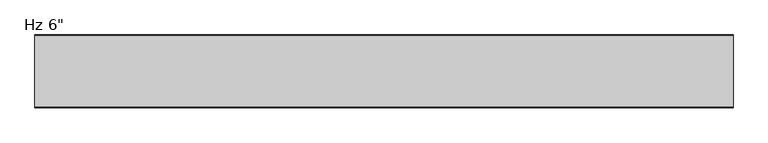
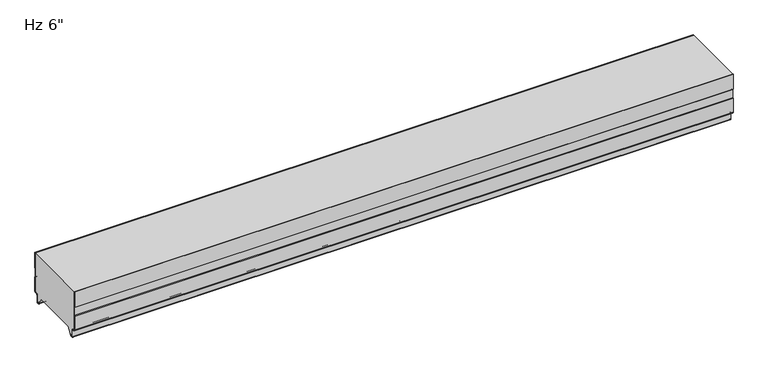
"""IFC4 building model written with IfcOpenShell, lengths in millimetres: plate geometry."""

from ifc_helpers import new_model, si_unit, frame, origin, place, context, project, spatial, polyline, circle_curve, source, transform, mapped, element, save
from ifc_brep_helpers import plane_surface, cylinder_surface, revolved_surface, advanced_brep


def plate_7880e4a6(model_context):
    return source(origin(), model_context, "Body", "AdvancedBrep", [
        advanced_brep(
        [(-730.0, -1.0, 59.9218553), (-730.0, -1.0, 94.95), (-730.0, 0.0, 94.95), (-730.0, 0.0, 59.479416), (-730.0, -1.1911595, 58.4068912), (-730.0, -1.1911595, 39.5087751), (-730.0, 0.0, 38.4362503), (-730.0, 0.0, 5.8272193), (-730.0, -2.9772904, 2.8499526), (-730.0, -5.2691742, 2.8499526), (-730.0, -8.2464427, -0.1273159), (-730.0, -8.2464427, -15.7237419), (-730.0, -9.8343193, -17.3116185), (-730.0, -12.905868, -17.3116185), (-730.0, -14.4937445, -15.7237419), (-730.0, -14.4937445, -13.3687064), (-730.0, -13.4937445, -13.3687064), (-730.0, -13.4937445, -15.7237419), (-730.0, -12.905868, -16.3116185), (-730.0, -9.8343193, -16.3116185), (-730.0, -9.2464427, -15.7237419), (-730.0, -9.2464427, -0.1273159), (-730.0, -5.2691742, 3.8499526), (-730.0, -2.9772904, 3.8499526), (-730.0, -1.0000218, 5.82722), (-730.0, -1.0, 37.993811), (-730.0, -2.1911595, 39.0663358), (-730.0, -2.1911595, 58.8493305), (730.0, 0.0, 59.479416), (730.0, 0.0, 94.95), (730.0, -1.0, 94.95), (730.0, -1.0, 59.9218553), (730.0, -2.1911595, 58.8493305), (730.0, -2.1911595, 39.0663358), (730.0, -1.0, 37.993811), (730.0, -1.0, 5.82722), (730.0, -2.9772904, 3.8499526), (730.0, -5.2691742, 3.8499526), (730.0, -9.2464427, -0.1273159), (730.0, -9.2464427, -15.7237419), (730.0, -9.8343193, -16.3116185), (730.0, -12.905868, -16.3116185), (730.0, -13.4937445, -15.7237419), (730.0, -13.4937445, -13.3687064), (730.0, -14.4937445, -13.3687064), (730.0, -14.4937445, -15.7237419), (730.0, -12.905868, -17.3116185), (730.0, -9.8343193, -17.3116185), (730.0, -8.2464427, -15.7237419), (730.0, -8.2464427, -0.1273159), (730.0, -5.2691742, 2.8499526), (730.0, -2.9772904, 2.8499526), (730.0, -2.18e-05, 5.8272193), (730.0, 0.0, 38.4362503), (730.0, -1.1911595, 39.5087751), (730.0, -1.1911595, 58.4068912)],
        [
            (0, 1),
            (1, 2),
            (2, 3),
            (3, 4),
            (4, 5),
            (5, 6),
            (6, 7),
            (7, 8, circle_curve(frame((-730.0, -2.9772904, 5.8272211), z_axis=(-1.0, 0.0, 0.0), x_axis=(0.0, 1.0, 0.0)), 2.9772685)),
            (8, 9),
            (9, 10, circle_curve(frame((-730.0, -5.2691742, -0.1273159), z_axis=(1.0, 0.0, 0.0), x_axis=(0.0, 1.0, 0.0)), 2.9772685)),
            (10, 11),
            (11, 12, circle_curve(frame((-730.0, -9.8343193, -15.7237419), z_axis=(-1.0, 0.0, 0.0), x_axis=(0.0, 1.0, 0.0)), 1.5878765)),
            (12, 13),
            (13, 14, circle_curve(frame((-730.0, -12.905868, -15.7237419), z_axis=(-1.0, 0.0, 0.0), x_axis=(0.0, 1.0, 0.0)), 1.5878765)),
            (14, 15),
            (15, 16),
            (16, 17),
            (17, 18, circle_curve(frame((-730.0, -12.905868, -15.7237419), z_axis=(1.0, 0.0, 0.0), x_axis=(0.0, 1.0, 0.0)), 0.5878765)),
            (18, 19),
            (19, 20, circle_curve(frame((-730.0, -9.8343193, -15.7237419), z_axis=(1.0, 0.0, 0.0), x_axis=(0.0, 1.0, 0.0)), 0.5878765)),
            (20, 21),
            (21, 22, circle_curve(frame((-730.0, -5.2691742, -0.1273159), z_axis=(-1.0, 0.0, 0.0), x_axis=(0.0, 1.0, 0.0)), 3.9772685)),
            (22, 23),
            (23, 24, circle_curve(frame((-730.0, -2.9772904, 5.8272212), z_axis=(1.0, 0.0, 0.0), x_axis=(0.0, 1.0, 0.0)), 1.9772685)),
            (24, 25),
            (25, 26),
            (26, 27),
            (27, 0),
            (28, 29),
            (29, 30),
            (30, 31),
            (31, 32),
            (32, 33),
            (33, 34),
            (34, 35),
            (35, 36, circle_curve(frame((730.0, -2.9772904, 5.8272212), z_axis=(-1.0, 0.0, 0.0), x_axis=(0.0, 1.0, 0.0)), 1.9772685)),
            (36, 37),
            (37, 38, circle_curve(frame((730.0, -5.2691742, -0.1273159), z_axis=(1.0, 0.0, 0.0), x_axis=(0.0, 1.0, 0.0)), 3.9772685)),
            (38, 39),
            (39, 40, circle_curve(frame((730.0, -9.8343193, -15.7237419), z_axis=(-1.0, 0.0, 0.0), x_axis=(0.0, 1.0, 0.0)), 0.5878765)),
            (40, 41),
            (41, 42, circle_curve(frame((730.0, -12.905868, -15.7237419), z_axis=(-1.0, 0.0, 0.0), x_axis=(0.0, 1.0, 0.0)), 0.5878765)),
            (42, 43),
            (43, 44),
            (44, 45),
            (45, 46, circle_curve(frame((730.0, -12.905868, -15.7237419), z_axis=(1.0, 0.0, 0.0), x_axis=(0.0, 1.0, 0.0)), 1.5878765)),
            (46, 47),
            (47, 48, circle_curve(frame((730.0, -9.8343193, -15.7237419), z_axis=(1.0, 0.0, 0.0), x_axis=(0.0, 1.0, 0.0)), 1.5878765)),
            (48, 49),
            (49, 50, circle_curve(frame((730.0, -5.2691742, -0.1273159), z_axis=(-1.0, 0.0, 0.0), x_axis=(0.0, 1.0, 0.0)), 2.9772685)),
            (50, 51),
            (51, 52, circle_curve(frame((730.0, -2.9772904, 5.8272211), z_axis=(1.0, 0.0, 0.0), x_axis=(0.0, 1.0, 0.0)), 2.9772685)),
            (52, 53),
            (53, 54),
            (54, 55),
            (55, 28),
            (30, 1),
            (0, 31),
            (27, 32),
            (26, 33),
            (25, 34),
            (24, 35),
            (23, 36),
            (22, 37),
            (21, 38),
            (20, 39),
            (19, 40),
            (18, 41),
            (17, 42),
            (16, 43),
            (15, 44),
            (14, 45),
            (13, 46),
            (12, 47),
            (11, 48),
            (10, 49),
            (9, 50),
            (8, 51),
            (7, 52),
            (6, 53),
            (5, 54),
            (4, 55),
            (3, 28),
            (2, 29),
        ],
        [
            plane_surface(frame((-730.0, 0.0, 576.2625), z_axis=(-1.0, 0.0, 0.0), x_axis=(0.0, 1.0, 0.0))),
            plane_surface(frame((730.0, 0.0, 576.2625), z_axis=(1.0, 0.0, 0.0), x_axis=(0.0, 1.0, 0.0))),
            plane_surface(frame((-730.0, -1.0, 113.6164312), z_axis=(0.0, -1.0, 0.0), x_axis=(1.0, 0.0, 0.0))),
            plane_surface(frame((-730.0, -1.0, 59.9218553), z_axis=(0.0, -0.6691306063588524, 0.7431448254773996), x_axis=(1.0, 0.0, 0.0))),
            plane_surface(frame((-730.0, -2.1911595, 58.8493305), z_axis=(0.0, -1.0, 0.0), x_axis=(1.0, 0.0, 0.0))),
            plane_surface(frame((-730.0, -2.1911595, 39.0663358), z_axis=(0.0, -0.6691306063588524, -0.7431448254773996), x_axis=(1.0, 0.0, 0.0))),
            plane_surface(frame((-730.0, -1.0, 37.993811), z_axis=(0.0, -1.0, 0.0), x_axis=(1.0, 0.0, 0.0))),
            revolved_surface(polyline([(730.0, -1.0000218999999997, 5.8272212), (-730.0, -1.0000218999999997, 5.8272212)]), (-730.0, -2.9772904, 5.8272212), (1.0, 0.0, 0.0)),
            plane_surface(frame((-730.0, -2.9772904, 3.8499526), z_axis=(0.0, 0.0, 1.0), x_axis=(1.0, 0.0, 0.0))),
            cylinder_surface(frame((-730.0, -5.2691742, -0.1273159), z_axis=(-1.0, 0.0, 0.0), x_axis=(0.0, 1.0, 0.0)), 3.9772685),
            plane_surface(frame((-730.0, -9.2464427, -0.1273159), z_axis=(0.0, -1.0, 0.0), x_axis=(1.0, 0.0, 0.0))),
            revolved_surface(polyline([(730.0, -9.2464428, -15.7237419), (-730.0, -9.2464428, -15.7237419)]), (-730.0, -9.8343193, -15.7237419), (1.0, 0.0, 0.0)),
            plane_surface(frame((-730.0, -9.8343193, -16.3116185), z_axis=(0.0, 0.0, 1.0), x_axis=(1.0, 0.0, 0.0))),
            revolved_surface(polyline([(730.0, -12.3179915, -15.7237419), (-730.0, -12.3179915, -15.7237419)]), (-730.0, -12.905868, -15.7237419), (1.0, 0.0, 0.0)),
            plane_surface(frame((-730.0, -13.4937445, -15.7237419), z_axis=(0.0, 1.0, 0.0), x_axis=(1.0, 0.0, 0.0))),
            plane_surface(frame((-730.0, -13.4937445, -13.3687064), z_axis=(0.0, 0.0, 1.0), x_axis=(1.0, 0.0, 0.0))),
            plane_surface(frame((-730.0, -14.4937445, -13.3687064), z_axis=(0.0, -1.0, 0.0), x_axis=(1.0, 0.0, 0.0))),
            cylinder_surface(frame((-730.0, -12.905868, -15.7237419), z_axis=(-1.0, 0.0, 0.0), x_axis=(0.0, 1.0, 0.0)), 1.5878765),
            plane_surface(frame((-730.0, -12.905868, -17.3116185), z_axis=(0.0, 0.0, -1.0), x_axis=(1.0, 0.0, 0.0))),
            cylinder_surface(frame((-730.0, -9.8343193, -15.7237419), z_axis=(-1.0, 0.0, 0.0), x_axis=(0.0, 1.0, 0.0)), 1.5878765),
            plane_surface(frame((-730.0, -8.2464427, -15.7237419), z_axis=(0.0, 1.0, 0.0), x_axis=(1.0, 0.0, 0.0))),
            revolved_surface(polyline([(730.0, -2.2919057, -0.1273159), (-730.0, -2.2919057, -0.1273159)]), (-730.0, -5.2691742, -0.1273159), (1.0, 0.0, 0.0)),
            plane_surface(frame((-730.0, -5.2691742, 2.8499526), z_axis=(0.0, 0.0, -1.0), x_axis=(1.0, 0.0, 0.0))),
            cylinder_surface(frame((-730.0, -2.9772904, 5.8272211), z_axis=(-1.0, 0.0, 0.0), x_axis=(0.0, 1.0, 0.0)), 2.9772685),
            plane_surface(frame((-730.0, 0.0, 5.8272193), z_axis=(0.0, 1.0, 0.0), x_axis=(1.0, 0.0, 0.0))),
            plane_surface(frame((-730.0, 0.0, 38.4362503), z_axis=(0.0, 0.6691306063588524, 0.7431448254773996), x_axis=(1.0, 0.0, 0.0))),
            plane_surface(frame((-730.0, -1.1911595, 39.5087751), z_axis=(0.0, 1.0, 0.0), x_axis=(1.0, 0.0, 0.0))),
            plane_surface(frame((-730.0, -1.1911595, 58.4068912), z_axis=(0.0, 0.6691306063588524, -0.7431448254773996), x_axis=(1.0, 0.0, 0.0))),
            plane_surface(frame((-730.0, 0.0, 59.479416), z_axis=(0.0, 1.0, 0.0), x_axis=(1.0, 0.0, 0.0))),
            plane_surface(frame((730.0, 10.0, 94.95), z_axis=(0.0, 0.0, 1.0), x_axis=(-1.0, 0.0, 0.0))),
        ],
        [
            (0, [[1, 2, 3, 4, 5, 6, 7, 8, 9, 10, 11, 12, 13, 14, 15, 16, 17, 18, 19, 20, 21, 22, 23, 24, 25, 26, 27, 28]]),
            (1, [[29, 30, 31, 32, 33, 34, 35, 36, 37, 38, 39, 40, 41, 42, 43, 44, 45, 46, 47, 48, 49, 50, 51, 52, 53, 54, 55, 56]]),
            (2, [[-31, 57, -1, 58]]),
            (3, [[59, -32, -58, -28]]),
            (4, [[60, -33, -59, -27]]),
            (5, [[61, -34, -60, -26]]),
            (6, [[62, -35, -61, -25]]),
            (7, [[63, -36, -62, -24]]),
            (8, [[64, -37, -63, -23]]),
            (9, [[65, -38, -64, -22]]),
            (10, [[66, -39, -65, -21]]),
            (11, [[67, -40, -66, -20]]),
            (12, [[68, -41, -67, -19]]),
            (13, [[69, -42, -68, -18]]),
            (14, [[70, -43, -69, -17]]),
            (15, [[71, -44, -70, -16]]),
            (16, [[72, -45, -71, -15]]),
            (17, [[73, -46, -72, -14]]),
            (18, [[74, -47, -73, -13]]),
            (19, [[75, -48, -74, -12]]),
            (20, [[76, -49, -75, -11]]),
            (21, [[77, -50, -76, -10]]),
            (22, [[78, -51, -77, -9]]),
            (23, [[79, -52, -78, -8]]),
            (24, [[80, -53, -79, -7]]),
            (25, [[81, -54, -80, -6]]),
            (26, [[82, -55, -81, -5]]),
            (27, [[83, -56, -82, -4]]),
            (28, [[-3, 84, -29, -83]]),
            (29, [[-57, -30, -84, -2]]),
        ],
    ),
        advanced_brep(
        [(-730.0, -152.4, 59.479416), (-730.0, -152.4, 94.95), (-730.0, -151.4, 94.95), (-730.0, -151.4, 59.9218553), (-730.0, -150.2088405, 58.8493305), (-730.0, -150.2088405, 39.0663358), (-730.0, -151.4, 37.993811), (-730.0, -151.4, 5.82722), (-730.0, -149.4227096, 3.8499526), (-730.0, -147.1308258, 3.8499526), (-730.0, -143.1535573, -0.1273159), (-730.0, -143.1535573, -15.7237419), (-730.0, -142.5656807, -16.3116185), (-730.0, -139.494132, -16.3116185), (-730.0, -138.9062555, -15.7237419), (-730.0, -138.9062555, -13.3687064), (-730.0, -137.9062555, -13.3687064), (-730.0, -137.9062555, -15.7237419), (-730.0, -139.494132, -17.3116185), (-730.0, -142.5656807, -17.3116185), (-730.0, -144.1535573, -15.7237419), (-730.0, -144.1535573, -0.1273159), (-730.0, -147.1308258, 2.8499526), (-730.0, -149.4227096, 2.8499526), (-730.0, -152.3999782, 5.8272193), (-730.0, -152.4, 38.4362503), (-730.0, -151.2088405, 39.5087751), (-730.0, -151.2088405, 58.4068912), (730.0, -151.4, 59.9218553), (730.0, -151.4, 94.95), (730.0, -152.4, 94.95), (730.0, -152.4, 59.479416), (730.0, -151.2088405, 58.4068912), (730.0, -151.2088405, 39.5087751), (730.0, -152.4, 38.4362503), (730.0, -152.4, 5.8272193), (730.0, -149.4227096, 2.8499526), (730.0, -147.1308258, 2.8499526), (730.0, -144.1535573, -0.1273159), (730.0, -144.1535573, -15.7237419), (730.0, -142.5656807, -17.3116185), (730.0, -139.494132, -17.3116185), (730.0, -137.9062555, -15.7237419), (730.0, -137.9062555, -13.3687064), (730.0, -138.9062555, -13.3687064), (730.0, -138.9062555, -15.7237419), (730.0, -139.494132, -16.3116185), (730.0, -142.5656807, -16.3116185), (730.0, -143.1535573, -15.7237419), (730.0, -143.1535573, -0.1273159), (730.0, -147.1308258, 3.8499526), (730.0, -149.4227096, 3.8499526), (730.0, -151.3999782, 5.82722), (730.0, -151.4, 37.993811), (730.0, -150.2088405, 39.0663358), (730.0, -150.2088405, 58.8493305)],
        [
            (0, 1),
            (1, 2),
            (2, 3),
            (3, 4),
            (4, 5),
            (5, 6),
            (6, 7),
            (7, 8, circle_curve(frame((-730.0, -149.4227096, 5.8272212), z_axis=(1.0, 0.0, 0.0), x_axis=(0.0, 0.0, -1.0)), 1.9772685)),
            (8, 9),
            (9, 10, circle_curve(frame((-730.0, -147.1308258, -0.1273159), z_axis=(-1.0, 0.0, 0.0), x_axis=(0.0, 0.0, -1.0)), 3.9772685)),
            (10, 11),
            (11, 12, circle_curve(frame((-730.0, -142.5656807, -15.7237419), z_axis=(1.0, 0.0, 0.0), x_axis=(0.0, 0.0, -1.0)), 0.5878765)),
            (12, 13),
            (13, 14, circle_curve(frame((-730.0, -139.494132, -15.7237419), z_axis=(1.0, 0.0, 0.0), x_axis=(0.0, 0.0, -1.0)), 0.5878765)),
            (14, 15),
            (15, 16),
            (16, 17),
            (17, 18, circle_curve(frame((-730.0, -139.494132, -15.7237419), z_axis=(-1.0, 0.0, 0.0), x_axis=(0.0, 0.0, -1.0)), 1.5878765)),
            (18, 19),
            (19, 20, circle_curve(frame((-730.0, -142.5656807, -15.7237419), z_axis=(-1.0, 0.0, 0.0), x_axis=(0.0, 0.0, -1.0)), 1.5878765)),
            (20, 21),
            (21, 22, circle_curve(frame((-730.0, -147.1308258, -0.1273159), z_axis=(1.0, 0.0, 0.0), x_axis=(0.0, 0.0, -1.0)), 2.9772685)),
            (22, 23),
            (23, 24, circle_curve(frame((-730.0, -149.4227096, 5.8272211), z_axis=(-1.0, 0.0, 0.0), x_axis=(0.0, 0.0, -1.0)), 2.9772685)),
            (24, 25),
            (25, 26),
            (26, 27),
            (27, 0),
            (28, 29),
            (29, 30),
            (30, 31),
            (31, 32),
            (32, 33),
            (33, 34),
            (34, 35),
            (35, 36, circle_curve(frame((730.0, -149.4227096, 5.8272211), z_axis=(1.0, 0.0, 0.0), x_axis=(0.0, 0.0, -1.0)), 2.9772685)),
            (36, 37),
            (37, 38, circle_curve(frame((730.0, -147.1308258, -0.1273159), z_axis=(-1.0, 0.0, 0.0), x_axis=(0.0, 0.0, -1.0)), 2.9772685)),
            (38, 39),
            (39, 40, circle_curve(frame((730.0, -142.5656807, -15.7237419), z_axis=(1.0, 0.0, 0.0), x_axis=(0.0, 0.0, -1.0)), 1.5878765)),
            (40, 41),
            (41, 42, circle_curve(frame((730.0, -139.494132, -15.7237419), z_axis=(1.0, 0.0, 0.0), x_axis=(0.0, 0.0, -1.0)), 1.5878765)),
            (42, 43),
            (43, 44),
            (44, 45),
            (45, 46, circle_curve(frame((730.0, -139.494132, -15.7237419), z_axis=(-1.0, 0.0, 0.0), x_axis=(0.0, 0.0, -1.0)), 0.5878765)),
            (46, 47),
            (47, 48, circle_curve(frame((730.0, -142.5656807, -15.7237419), z_axis=(-1.0, 0.0, 0.0), x_axis=(0.0, 0.0, -1.0)), 0.5878765)),
            (48, 49),
            (49, 50, circle_curve(frame((730.0, -147.1308258, -0.1273159), z_axis=(1.0, 0.0, 0.0), x_axis=(0.0, 0.0, -1.0)), 3.9772685)),
            (50, 51),
            (51, 52, circle_curve(frame((730.0, -149.4227096, 5.8272212), z_axis=(-1.0, 0.0, 0.0), x_axis=(0.0, 0.0, -1.0)), 1.9772685)),
            (52, 53),
            (53, 54),
            (54, 55),
            (55, 28),
            (1, 30),
            (29, 2),
            (0, 31),
            (27, 32),
            (26, 33),
            (25, 34),
            (24, 35),
            (23, 36),
            (22, 37),
            (21, 38),
            (20, 39),
            (19, 40),
            (18, 41),
            (17, 42),
            (16, 43),
            (15, 44),
            (14, 45),
            (13, 46),
            (12, 47),
            (11, 48),
            (10, 49),
            (9, 50),
            (8, 51),
            (7, 52),
            (6, 53),
            (5, 54),
            (4, 55),
            (3, 28),
        ],
        [
            plane_surface(frame((-730.0, -152.4, 576.2625), z_axis=(-1.0, 0.0, 0.0), x_axis=(0.0, -1.0, 0.0))),
            plane_surface(frame((730.0, -152.4, 576.2625), z_axis=(1.0, 0.0, 0.0), x_axis=(0.0, -1.0, 0.0))),
            plane_surface(frame((730.0, 10.0, 94.95), z_axis=(0.0, 0.0, 1.0), x_axis=(-1.0, 0.0, 0.0))),
            plane_surface(frame((-730.0, -152.4, 114.0588705), z_axis=(0.0, -1.0, 0.0), x_axis=(1.0, 0.0, 0.0))),
            plane_surface(frame((-730.0, -152.4, 59.479416), z_axis=(0.0, -0.6691306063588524, -0.7431448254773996), x_axis=(1.0, 0.0, 0.0))),
            plane_surface(frame((-730.0, -151.2088405, 58.4068912), z_axis=(0.0, -1.0, 0.0), x_axis=(1.0, 0.0, 0.0))),
            plane_surface(frame((-730.0, -151.2088405, 39.5087751), z_axis=(0.0, -0.6691306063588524, 0.7431448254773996), x_axis=(1.0, 0.0, 0.0))),
            plane_surface(frame((-730.0, -152.4, 38.4362503), z_axis=(0.0, -1.0, 0.0), x_axis=(1.0, 0.0, 0.0))),
            cylinder_surface(frame((-730.0, -149.4227096, 5.8272211), z_axis=(-1.0, 0.0, 0.0), x_axis=(0.0, 0.0, -1.0)), 2.9772685),
            plane_surface(frame((-730.0, -149.4227096, 2.8499526), z_axis=(0.0, 0.0, -1.0), x_axis=(1.0, 0.0, 0.0))),
            revolved_surface(polyline([(730.0, -147.1308258, -3.1045844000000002), (-730.0, -147.1308258, -3.1045844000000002)]), (-730.0, -147.1308258, -0.1273159), (1.0, 0.0, 0.0)),
            plane_surface(frame((-730.0, -144.1535573, -0.1273159), z_axis=(0.0, -1.0, 0.0), x_axis=(1.0, 0.0, 0.0))),
            cylinder_surface(frame((-730.0, -142.5656807, -15.7237419), z_axis=(-1.0, 0.0, 0.0), x_axis=(0.0, 0.0, -1.0)), 1.5878765),
            plane_surface(frame((-730.0, -142.5656807, -17.3116185), z_axis=(0.0, 0.0, -1.0), x_axis=(1.0, 0.0, 0.0))),
            cylinder_surface(frame((-730.0, -139.494132, -15.7237419), z_axis=(-1.0, 0.0, 0.0), x_axis=(0.0, 0.0, -1.0)), 1.5878765),
            plane_surface(frame((-730.0, -137.9062555, -15.7237419), z_axis=(0.0, 1.0, 0.0), x_axis=(1.0, 0.0, 0.0))),
            plane_surface(frame((-730.0, -137.9062555, -13.3687064), z_axis=(0.0, 0.0, 1.0), x_axis=(1.0, 0.0, 0.0))),
            plane_surface(frame((-730.0, -138.9062555, -13.3687064), z_axis=(0.0, -1.0, 0.0), x_axis=(1.0, 0.0, 0.0))),
            revolved_surface(polyline([(730.0, -139.494132, -16.3116184), (-730.0, -139.494132, -16.3116184)]), (-730.0, -139.494132, -15.7237419), (1.0, 0.0, 0.0)),
            plane_surface(frame((-730.0, -139.494132, -16.3116185), z_axis=(0.0, 0.0, 1.0), x_axis=(1.0, 0.0, 0.0))),
            revolved_surface(polyline([(730.0, -142.5656807, -16.3116184), (-730.0, -142.5656807, -16.3116184)]), (-730.0, -142.5656807, -15.7237419), (1.0, 0.0, 0.0)),
            plane_surface(frame((-730.0, -143.1535573, -15.7237419), z_axis=(0.0, 1.0, 0.0), x_axis=(1.0, 0.0, 0.0))),
            cylinder_surface(frame((-730.0, -147.1308258, -0.1273159), z_axis=(-1.0, 0.0, 0.0), x_axis=(0.0, 0.0, -1.0)), 3.9772685),
            plane_surface(frame((-730.0, -147.1308258, 3.8499526), z_axis=(0.0, 0.0, 1.0), x_axis=(1.0, 0.0, 0.0))),
            revolved_surface(polyline([(730.0, -149.4227096, 3.8499527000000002), (-730.0, -149.4227096, 3.8499527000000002)]), (-730.0, -149.4227096, 5.8272212), (1.0, 0.0, 0.0)),
            plane_surface(frame((-730.0, -151.4, 5.82722), z_axis=(0.0, 1.0, 0.0), x_axis=(1.0, 0.0, 0.0))),
            plane_surface(frame((-730.0, -151.4, 37.993811), z_axis=(0.0, 0.6691306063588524, -0.7431448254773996), x_axis=(1.0, 0.0, 0.0))),
            plane_surface(frame((-730.0, -150.2088405, 39.0663358), z_axis=(0.0, 1.0, 0.0), x_axis=(1.0, 0.0, 0.0))),
            plane_surface(frame((-730.0, -150.2088405, 58.8493305), z_axis=(0.0, 0.6691306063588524, 0.7431448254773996), x_axis=(1.0, 0.0, 0.0))),
            plane_surface(frame((-730.0, -151.4, 59.9218553), z_axis=(0.0, 1.0, 0.0), x_axis=(1.0, 0.0, 0.0))),
        ],
        [
            (0, [[1, 2, 3, 4, 5, 6, 7, 8, 9, 10, 11, 12, 13, 14, 15, 16, 17, 18, 19, 20, 21, 22, 23, 24, 25, 26, 27, 28]]),
            (1, [[29, 30, 31, 32, 33, 34, 35, 36, 37, 38, 39, 40, 41, 42, 43, 44, 45, 46, 47, 48, 49, 50, 51, 52, 53, 54, 55, 56]]),
            (2, [[57, -30, 58, -2]]),
            (3, [[-31, -57, -1, 59]]),
            (4, [[60, -32, -59, -28]]),
            (5, [[61, -33, -60, -27]]),
            (6, [[62, -34, -61, -26]]),
            (7, [[63, -35, -62, -25]]),
            (8, [[64, -36, -63, -24]]),
            (9, [[65, -37, -64, -23]]),
            (10, [[66, -38, -65, -22]]),
            (11, [[67, -39, -66, -21]]),
            (12, [[68, -40, -67, -20]]),
            (13, [[69, -41, -68, -19]]),
            (14, [[70, -42, -69, -18]]),
            (15, [[71, -43, -70, -17]]),
            (16, [[72, -44, -71, -16]]),
            (17, [[73, -45, -72, -15]]),
            (18, [[74, -46, -73, -14]]),
            (19, [[75, -47, -74, -13]]),
            (20, [[76, -48, -75, -12]]),
            (21, [[77, -49, -76, -11]]),
            (22, [[78, -50, -77, -10]]),
            (23, [[79, -51, -78, -9]]),
            (24, [[80, -52, -79, -8]]),
            (25, [[81, -53, -80, -7]]),
            (26, [[82, -54, -81, -6]]),
            (27, [[83, -55, -82, -5]]),
            (28, [[84, -56, -83, -4]]),
            (29, [[-3, -58, -29, -84]]),
        ],
    ),
        advanced_brep(
        [(-730.0, -151.4, 59.9218553), (-730.0, -151.4, 94.95), (-730.0, -1.0, 94.95), (-730.0, -1.0, 59.9218553), (-730.0, -2.1911595, 58.8493305), (-730.0, -2.1911595, 39.0663358), (-730.0, -1.0000109, 37.993811), (-730.0, -1.0000109, 5.8272239), (-730.0, -2.9772849, 3.8499499), (-730.0, -5.2691749, 3.8499499), (-730.0, -9.246442, -0.1273173), (-730.0, -9.246442, -15.7237417), (-730.0, -9.8343189, -16.3116186), (-730.0, -12.9058679, -16.3116186), (-730.0, -13.4937446, -15.723742), (-730.0, -13.4937446, -13.3687064), (-730.0, -14.4937446, -13.3687064), (-730.0, -14.4937446, -15.6582851), (-730.0, -23.7509179, 0.0), (-730.0, -128.6490865, 0.0), (-730.0, -137.9062554, -15.6582851), (-730.0, -137.9062554, -13.3687064), (-730.0, -138.9062554, -13.3687064), (-730.0, -138.9062554, -15.723742), (-730.0, -139.4941321, -16.3116186), (-730.0, -142.5656811, -16.3116186), (-730.0, -143.153558, -15.7237417), (-730.0, -143.153558, -0.1273173), (-730.0, -147.1308251, 3.8499499), (-730.0, -149.4227151, 3.8499499), (-730.0, -151.3999891, 5.8272239), (-730.0, -151.3999891, 37.993811), (-730.0, -150.2088405, 39.0663358), (-730.0, -150.2088405, 58.8493305), (730.0, -128.6490865, 0.0), (730.0, -23.7509179, 0.0), (730.0, -14.4937446, -15.6582851), (730.0, -14.4937446, -13.3687064), (730.0, -13.4937446, -13.3687064), (730.0, -13.4937446, -15.723742), (730.0, -12.9058679, -16.3116186), (730.0, -9.8343189, -16.3116186), (730.0, -9.246442, -15.7237417), (730.0, -9.246442, -0.1273173), (730.0, -5.2691749, 3.8499499), (730.0, -2.9772849, 3.8499499), (730.0, -1.0000109, 5.8272239), (730.0, -1.0000109, 37.993811), (730.0, -2.1911595, 39.0663358), (730.0, -2.1911595, 58.8493305), (730.0, -1.0, 59.9218553), (730.0, -1.0, 94.95), (730.0, -151.4, 94.95), (730.0, -151.4, 59.9218553), (730.0, -150.2088405, 58.8493305), (730.0, -150.2088405, 39.0663358), (730.0, -151.3999891, 37.993811), (730.0, -151.3999891, 5.8272239), (730.0, -149.4227151, 3.8499499), (730.0, -147.1308251, 3.8499499), (730.0, -143.153558, -0.1273173), (730.0, -143.153558, -15.7237417), (730.0, -142.5656811, -16.3116186), (730.0, -139.4941321, -16.3116186), (730.0, -138.9062554, -15.723742), (730.0, -138.9062554, -13.3687064), (730.0, -137.9062554, -13.3687064), (730.0, -137.9062554, -15.6582851)],
        [
            (0, 1),
            (1, 2),
            (2, 3),
            (3, 4),
            (4, 5),
            (5, 6),
            (6, 7),
            (7, 8, circle_curve(frame((-730.0, -2.9772849, 5.8272239), z_axis=(-1.0, 0.0, 0.0), x_axis=(0.0, 1.0, 0.0)), 1.977274)),
            (8, 9),
            (9, 10, circle_curve(frame((-730.0, -5.2691749, -0.1273173), z_axis=(1.0, 0.0, 0.0), x_axis=(0.0, 1.0, 0.0)), 3.9772671)),
            (10, 11),
            (11, 12, circle_curve(frame((-730.0, -9.8343189, -15.7237417), z_axis=(-1.0, 0.0, 0.0), x_axis=(0.0, 1.0, 0.0)), 0.5878769)),
            (12, 13),
            (13, 14, circle_curve(frame((-730.0, -12.9058679, -15.723742), z_axis=(-1.0, 0.0, 0.0), x_axis=(0.0, 1.0, 0.0)), 0.5878766)),
            (14, 15),
            (15, 16),
            (16, 17),
            (17, 18),
            (18, 19),
            (19, 20),
            (20, 21),
            (21, 22),
            (22, 23),
            (23, 24, circle_curve(frame((-730.0, -139.4941321, -15.723742), z_axis=(-1.0, 0.0, 0.0), x_axis=(0.0, 0.0, -1.0)), 0.5878766)),
            (24, 25),
            (25, 26, circle_curve(frame((-730.0, -142.5656811, -15.7237417), z_axis=(-1.0, 0.0, 0.0), x_axis=(0.0, 0.0, -1.0)), 0.5878769)),
            (26, 27),
            (27, 28, circle_curve(frame((-730.0, -147.1308251, -0.1273173), z_axis=(1.0, 0.0, 0.0), x_axis=(0.0, 0.0, -1.0)), 3.9772671)),
            (28, 29),
            (29, 30, circle_curve(frame((-730.0, -149.4227151, 5.8272239), z_axis=(-1.0, 0.0, 0.0), x_axis=(0.0, 0.0, -1.0)), 1.977274)),
            (30, 31),
            (31, 32),
            (32, 33),
            (33, 0),
            (34, 35),
            (35, 36),
            (36, 37),
            (37, 38),
            (38, 39),
            (39, 40, circle_curve(frame((730.0, -12.9058679, -15.723742), z_axis=(1.0, 0.0, 0.0), x_axis=(0.0, 1.0, 0.0)), 0.5878766)),
            (40, 41),
            (41, 42, circle_curve(frame((730.0, -9.8343189, -15.7237417), z_axis=(1.0, 0.0, 0.0), x_axis=(0.0, 1.0, 0.0)), 0.5878769)),
            (42, 43),
            (43, 44, circle_curve(frame((730.0, -5.2691749, -0.1273173), z_axis=(-1.0, 0.0, 0.0), x_axis=(0.0, 1.0, 0.0)), 3.9772671)),
            (44, 45),
            (45, 46, circle_curve(frame((730.0, -2.9772849, 5.8272239), z_axis=(1.0, 0.0, 0.0), x_axis=(0.0, 1.0, 0.0)), 1.977274)),
            (46, 47),
            (47, 48),
            (48, 49),
            (49, 50),
            (50, 51),
            (51, 52),
            (52, 53),
            (53, 54),
            (54, 55),
            (55, 56),
            (56, 57),
            (57, 58, circle_curve(frame((730.0, -149.4227151, 5.8272239), z_axis=(1.0, 0.0, 0.0), x_axis=(0.0, 0.0, -1.0)), 1.977274)),
            (58, 59),
            (59, 60, circle_curve(frame((730.0, -147.1308251, -0.1273173), z_axis=(-1.0, 0.0, 0.0), x_axis=(0.0, 0.0, -1.0)), 3.9772671)),
            (60, 61),
            (61, 62, circle_curve(frame((730.0, -142.5656811, -15.7237417), z_axis=(1.0, 0.0, 0.0), x_axis=(0.0, 0.0, -1.0)), 0.5878769)),
            (62, 63),
            (63, 64, circle_curve(frame((730.0, -139.4941321, -15.723742), z_axis=(1.0, 0.0, 0.0), x_axis=(0.0, 0.0, -1.0)), 0.5878766)),
            (64, 65),
            (65, 66),
            (66, 67),
            (67, 34),
            (17, 36),
            (35, 18),
            (16, 37),
            (15, 38),
            (14, 39),
            (13, 40),
            (12, 41),
            (11, 42),
            (10, 43),
            (9, 44),
            (8, 45),
            (7, 46),
            (6, 47),
            (5, 48),
            (4, 49),
            (3, 50),
            (2, 51),
            (34, 19),
            (1, 52),
            (0, 53),
            (33, 54),
            (32, 55),
            (31, 56),
            (30, 57),
            (29, 58),
            (28, 59),
            (27, 60),
            (26, 61),
            (25, 62),
            (24, 63),
            (23, 64),
            (22, 65),
            (21, 66),
            (20, 67),
        ],
        [
            plane_surface(frame((-730.0, -151.4, 576.2625), z_axis=(-1.0, 0.0, 0.0), x_axis=(0.0, -1.0, 0.0))),
            plane_surface(frame((730.0, -151.4, 576.2625), z_axis=(1.0, 0.0, 0.0), x_axis=(0.0, -1.0, 0.0))),
            plane_surface(frame((-730.0, -23.7509179, 0.0), z_axis=(0.0, -0.8608169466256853, -0.5089147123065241), x_axis=(1.0, 0.0, 0.0))),
            plane_surface(frame((-730.0, -14.4937446, -15.6582851), z_axis=(0.0, 1.0, 0.0), x_axis=(1.0, 0.0, 0.0))),
            plane_surface(frame((-730.0, -14.4937446, -13.3687064), z_axis=(0.0, 0.0, -1.0), x_axis=(1.0, 0.0, 0.0))),
            plane_surface(frame((-730.0, -13.4937446, -13.3687064), z_axis=(0.0, -1.0, 0.0), x_axis=(1.0, 0.0, 0.0))),
            cylinder_surface(frame((-730.0, -12.9058679, -15.723742), z_axis=(-1.0, 0.0, 0.0), x_axis=(0.0, 1.0, 0.0)), 0.5878766),
            plane_surface(frame((-730.0, -12.9058679, -16.3116186), z_axis=(0.0, 0.0, -1.0), x_axis=(1.0, 0.0, 0.0))),
            cylinder_surface(frame((-730.0, -9.8343189, -15.7237417), z_axis=(-1.0, 0.0, 0.0), x_axis=(0.0, 1.0, 0.0)), 0.5878769),
            plane_surface(frame((-730.0, -9.246442, -15.7237417), z_axis=(0.0, 1.0, 0.0), x_axis=(1.0, 0.0, 0.0))),
            revolved_surface(polyline([(730.0, -1.2919078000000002, -0.1273173), (-730.0, -1.2919078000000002, -0.1273173)]), (-730.0, -5.2691749, -0.1273173), (1.0, 0.0, 0.0)),
            plane_surface(frame((-730.0, -5.2691749, 3.8499499), z_axis=(0.0, 0.0, -1.0), x_axis=(1.0, 0.0, 0.0))),
            cylinder_surface(frame((-730.0, -2.9772849, 5.8272239), z_axis=(-1.0, 0.0, 0.0), x_axis=(0.0, 1.0, 0.0)), 1.977274),
            plane_surface(frame((-730.0, -1.0000109, 5.8272239), z_axis=(0.0, 1.0, 0.0), x_axis=(1.0, 0.0, 0.0))),
            plane_surface(frame((-730.0, -1.0000109, 37.993811), z_axis=(0.0, 0.6691339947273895, 0.7431417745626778), x_axis=(1.0, 0.0, 0.0))),
            plane_surface(frame((-730.0, -2.1911595, 39.0663358), z_axis=(0.0, 1.0, 0.0), x_axis=(1.0, 0.0, 0.0))),
            plane_surface(frame((-730.0, -2.1911595, 58.8493305), z_axis=(0.0, 0.6691306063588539, -0.7431448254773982), x_axis=(1.0, 0.0, 0.0))),
            plane_surface(frame((-730.0, -1.0, 59.9218553), z_axis=(0.0, 1.0, 0.0), x_axis=(1.0, 0.0, 0.0))),
            plane_surface(frame((-730.0, -128.6490865, 0.0), z_axis=(0.0, 0.0, -1.0), x_axis=(1.0, 0.0, 0.0))),
            plane_surface(frame((730.0, 10.0, 94.95), z_axis=(0.0, 0.0, 1.0), x_axis=(-1.0, 0.0, 0.0))),
            plane_surface(frame((-730.0, -151.4, 113.6164312), z_axis=(0.0, -1.0, 0.0), x_axis=(1.0, 0.0, 0.0))),
            plane_surface(frame((-730.0, -151.4, 59.9218553), z_axis=(0.0, -0.6691306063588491, -0.7431448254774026), x_axis=(1.0, 0.0, 0.0))),
            plane_surface(frame((-730.0, -150.2088405, 58.8493305), z_axis=(0.0, -1.0, 0.0), x_axis=(1.0, 0.0, 0.0))),
            plane_surface(frame((-730.0, -150.2088405, 39.0663358), z_axis=(0.0, -0.6691339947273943, 0.7431417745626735), x_axis=(1.0, 0.0, 0.0))),
            plane_surface(frame((-730.0, -151.3999891, 37.993811), z_axis=(0.0, -1.0, 0.0), x_axis=(1.0, 0.0, 0.0))),
            cylinder_surface(frame((-730.0, -149.4227151, 5.8272239), z_axis=(-1.0, 0.0, 0.0), x_axis=(0.0, 0.0, -1.0)), 1.977274),
            plane_surface(frame((-730.0, -149.4227151, 3.8499499), z_axis=(0.0, 0.0, -1.0), x_axis=(1.0, 0.0, 0.0))),
            revolved_surface(polyline([(730.0, -147.1308251, -4.1045844), (-730.0, -147.1308251, -4.1045844)]), (-730.0, -147.1308251, -0.1273173), (1.0, 0.0, 0.0)),
            plane_surface(frame((-730.0, -143.153558, -0.1273173), z_axis=(0.0, -1.0, 0.0), x_axis=(1.0, 0.0, 0.0))),
            cylinder_surface(frame((-730.0, -142.5656811, -15.7237417), z_axis=(-1.0, 0.0, 0.0), x_axis=(0.0, 0.0, -1.0)), 0.5878769),
            plane_surface(frame((-730.0, -142.5656811, -16.3116186), z_axis=(0.0, 0.0, -1.0), x_axis=(1.0, 0.0, 0.0))),
            cylinder_surface(frame((-730.0, -139.4941321, -15.723742), z_axis=(-1.0, 0.0, 0.0), x_axis=(0.0, 0.0, -1.0)), 0.5878766),
            plane_surface(frame((-730.0, -138.9062554, -15.723742), z_axis=(0.0, 1.0, 0.0), x_axis=(1.0, 0.0, 0.0))),
            plane_surface(frame((-730.0, -138.9062554, -13.3687064), z_axis=(0.0, 0.0, -1.0), x_axis=(1.0, 0.0, 0.0))),
            plane_surface(frame((-730.0, -137.9062554, -13.3687064), z_axis=(0.0, -1.0, 0.0), x_axis=(1.0, 0.0, 0.0))),
            plane_surface(frame((-730.0, -137.9062554, -15.6582851), z_axis=(0.0, 0.8608169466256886, -0.5089147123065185), x_axis=(1.0, 0.0, 0.0))),
        ],
        [
            (0, [[1, 2, 3, 4, 5, 6, 7, 8, 9, 10, 11, 12, 13, 14, 15, 16, 17, 18, 19, 20, 21, 22, 23, 24, 25, 26, 27, 28, 29, 30, 31, 32, 33, 34]]),
            (1, [[35, 36, 37, 38, 39, 40, 41, 42, 43, 44, 45, 46, 47, 48, 49, 50, 51, 52, 53, 54, 55, 56, 57, 58, 59, 60, 61, 62, 63, 64, 65, 66, 67, 68]]),
            (2, [[69, -36, 70, -18]]),
            (3, [[71, -37, -69, -17]]),
            (4, [[72, -38, -71, -16]]),
            (5, [[73, -39, -72, -15]]),
            (6, [[74, -40, -73, -14]]),
            (7, [[75, -41, -74, -13]]),
            (8, [[76, -42, -75, -12]]),
            (9, [[77, -43, -76, -11]]),
            (10, [[78, -44, -77, -10]]),
            (11, [[79, -45, -78, -9]]),
            (12, [[80, -46, -79, -8]]),
            (13, [[81, -47, -80, -7]]),
            (14, [[82, -48, -81, -6]]),
            (15, [[83, -49, -82, -5]]),
            (16, [[84, -50, -83, -4]]),
            (17, [[-3, 85, -51, -84]]),
            (18, [[86, -19, -70, -35]]),
            (19, [[87, -52, -85, -2]]),
            (20, [[-53, -87, -1, 88]]),
            (21, [[89, -54, -88, -34]]),
            (22, [[90, -55, -89, -33]]),
            (23, [[91, -56, -90, -32]]),
            (24, [[92, -57, -91, -31]]),
            (25, [[93, -58, -92, -30]]),
            (26, [[94, -59, -93, -29]]),
            (27, [[95, -60, -94, -28]]),
            (28, [[96, -61, -95, -27]]),
            (29, [[97, -62, -96, -26]]),
            (30, [[98, -63, -97, -25]]),
            (31, [[99, -64, -98, -24]]),
            (32, [[100, -65, -99, -23]]),
            (33, [[101, -66, -100, -22]]),
            (34, [[102, -67, -101, -21]]),
            (35, [[-86, -68, -102, -20]]),
        ],
    ),
    ])


if __name__ == "__main__":
    model = new_model("IFC4")
    model_context = context("Model", 3, world=origin())
    ifc_project = project(units=[si_unit("LENGTHUNIT", "METRE", prefix="MILLI")], contexts=[model_context])
    site = spatial("IfcSite", under=ifc_project)
    building = spatial("IfcBuilding", under=site)
    placement = place(None, origin())
    plate_shape = plate_7880e4a6(model_context)
    element("IfcPlate", 1, ObjectType="KIP-SLI-FLI-R19-CP-Hz-SL_SL : Hz 6\"", at=placement, inside=building, context=model_context, shape_type="MappedRepresentation", body=[
        mapped(plate_shape, transform((0.0, 0.0, 0.0), x_axis=(1.0, 0.0, 0.0), y_axis=(0.0, 1.0, 0.0), z_axis=(0.0, 0.0, 1.0))),
    ])
    save(model, "model.ifc")
